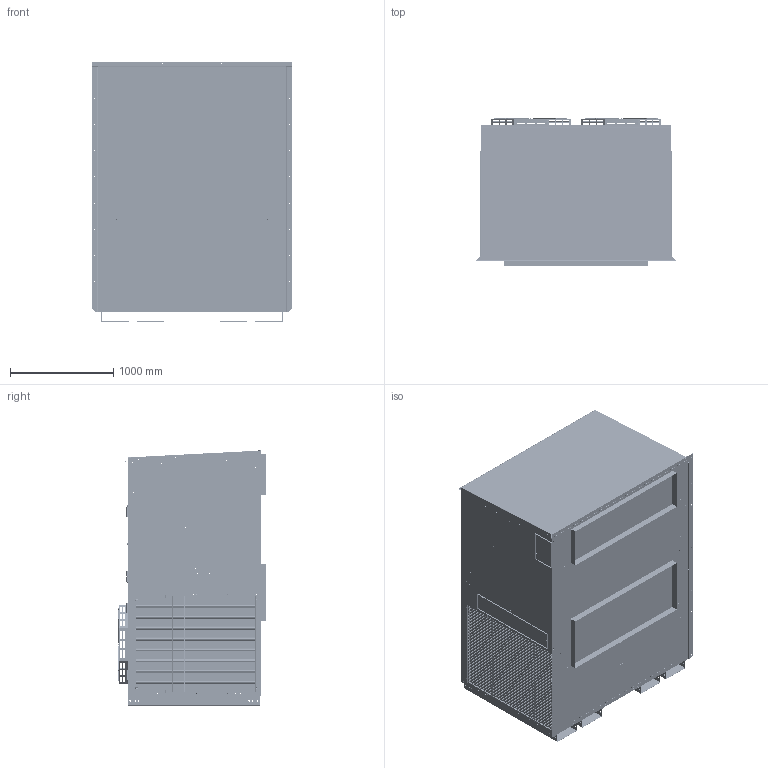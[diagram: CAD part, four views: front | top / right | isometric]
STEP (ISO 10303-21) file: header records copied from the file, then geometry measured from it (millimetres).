
FILE_DESCRIPTION (( 'STEP AP214' ), '1' );
FILE_NAME ('CFA3 180 STD NON ECONO - B2.STEP', '2022-07-07T12:55:46', ( '' ), ( '' ), 'SwSTEP 2.0', 'SolidWorks 2020', '' );
FILE_SCHEMA (( 'AUTOMOTIVE_DESIGN' ));
Length unit declared in the file: inch
Products named in the file (46): 128142003; 128141203; SML23012X; 02146 RH BOTTOM; 91039; MD09454; MD09441; BLOCK OFF PLATE, REAR^ECUA240; MD09449; MD09457; SML23013X ASSY; 60309; 90857 SMALL LOOP; 90857 BASE; MD09504; MD09503; MD09560; MD09450; 02145 LH BOTTOM; 30196_608910; d30144; 60310; 02145; MD09500; SML23013X; MD09505; 02146 RH TOP; MD09452; 90857; 02146_FLEXIBLE; 90857 LARGE LOOP; MD09499; SML23012X ASSY; MD09524; MD09525; SML45059X; MD09526; MD09541; 02145 LH TOP; MD09507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
Assembly tree (81 placements, depth 3):
  CFA3 180 STD NON ECONO - B2
    MD09441
    MD09449
    MD09450
    MD09452
    MD09453
    MD09454
    MD09457
    MD09499
    MD09500
    MD09503
    MD09504
    MD09505  x3
    MD09507
    MD09518  x4
    MD09524  x2
    MD09525
    MD09526
    MD09541
    MD09558  x2
    MD09560
    MD09561  x2
    02145  x4
      02145 LH BOTTOM
      02145 LH TOP
    02146_FLEXIBLE  x4
      02146 RH BOTTOM
      02146 RH TOP
    60309
      128142003
    60310
      128141203
    90857  x2
      90857 BASE
      90857 SMALL LOOP
      90857 LARGE LOOP
    91039  x6
    BLOCK OFF PLATE, REAR^ECUA240
    SML23013X ASSY
      SML23013X
      SML45059X
    SML23012X ASSY
      SML23012X
      SML45059X
    SML23003X  x2
    d30144  x2
    30196_608910  x2
Bounding box: 1930.4 x 1437.98 x 2510.94 mm (x, y, z)
Volume: 228811994 mm3; surface area: 83800265.1 mm2
Topology: 682 solids, 736 shells, 18121 faces, 44592 edges, 27519 vertices
Faces by surface type: cylinder 8416, plane 4875, cone 2804, bspline 1648, torus 214, sphere 164
Entity records: 700779 total; most frequent: CARTESIAN_POINT 234591, DIRECTION 74677, ORIENTED_EDGE 67610, EDGE_CURVE 33835, AXIS2_PLACEMENT_3D 30290, VERTEX_POINT 20830, EDGE_LOOP 18284, CIRCLE 17648
